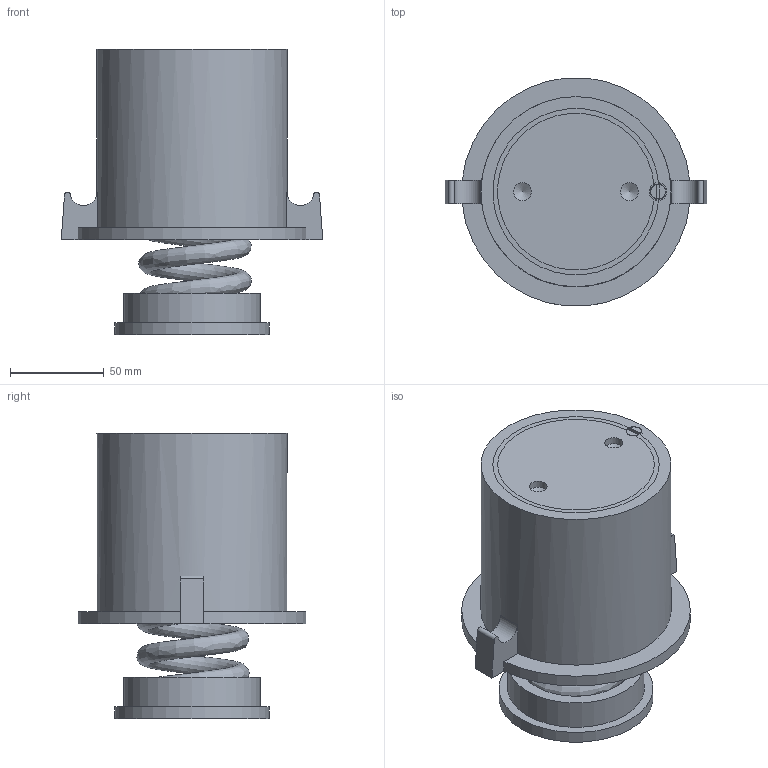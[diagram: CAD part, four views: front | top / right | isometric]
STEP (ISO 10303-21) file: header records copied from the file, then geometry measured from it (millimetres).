
FILE_DESCRIPTION(/* description */ (''),/* implementation_level */ '2;1');
FILE_NAME(/* name */ '\\Mleuckthor2\cad-proe_solids\WEBSITE FILES 05.22.13\STEP\FS\FSB-4 with 2inchAirGap.stp',/* time_stamp */ '2016-03-11T18:42:08-05:00',/* author */ ('rramoutar'),/* organization */ ('Mason Industries Inc.'),/* preprocessor_version */ 'ST-DEVELOPER v15.6',/* originating_system */ 'Autodesk Inventor 2015',/* authorisation */ '');
FILE_SCHEMA (('AUTOMOTIVE_DESIGN { 1 0 10303 214 3 1 1 }'));
Length unit declared in the file: inch
Products named in the file (1): D-1886-3 FS-B ASSY
Bounding box: 139.7 x 121.78 x 152.4 mm (x, y, z)
Volume: 671741.5 mm3; surface area: 197172.2 mm2
Topology: 8 solids, 8 shells, 78 faces, 174 edges, 113 vertices
Faces by surface type: plane 41, cylinder 25, cone 9, bspline 2, sphere 1
Full cylindrical faces by diameter (mm): 9.525 x3, 15.875 x2, 60.325 x1, 63.5 x2, 73.025 x1, 76.2 x2, 82.55 x1, 83.82 x1, 88.9 x1, 101.6 x1
Entity records: 4391 total; most frequent: CARTESIAN_POINT 2689, DIRECTION 350, ORIENTED_EDGE 284, AXIS2_PLACEMENT_3D 144, EDGE_CURVE 142, EDGE_LOOP 110, VERTEX_POINT 104, FACE_OUTER_BOUND 78
